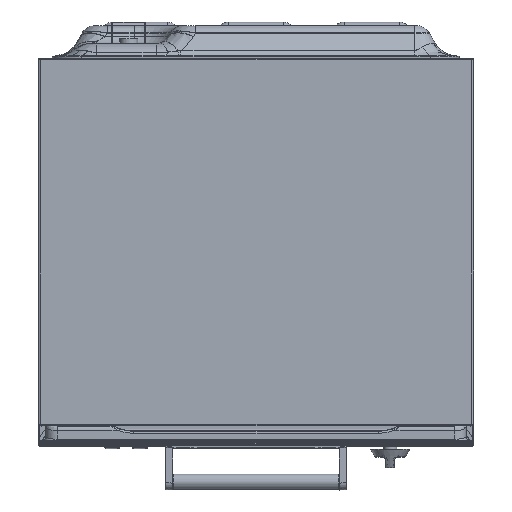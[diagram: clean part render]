
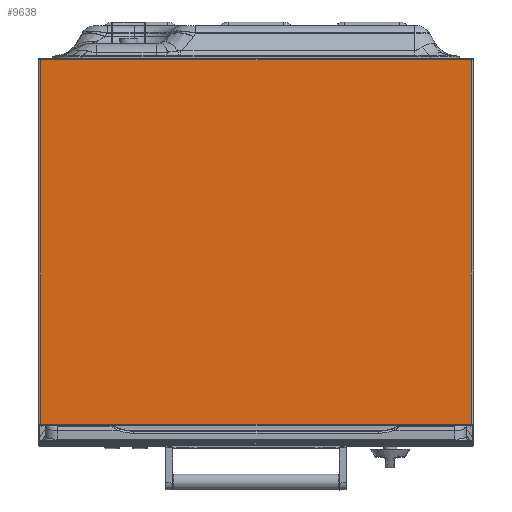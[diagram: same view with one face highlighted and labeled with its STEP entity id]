
A CAD part, top view. The second image highlights one B-rep face of the part: STEP entity #9638.
In plain terms, the highlighted planar face has unit normal (0, 0, 1).
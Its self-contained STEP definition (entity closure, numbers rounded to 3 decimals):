
#4934=PLANE('',#76829);
#9638=ADVANCED_FACE('',(#13795),#4934,.T.);
#13795=FACE_OUTER_BOUND('',#18387,.T.);
#18387=EDGE_LOOP('',(#33086,#33087,#33088,#33089));
#33086=ORIENTED_EDGE('',*,*,#53604,.T.);
#33087=ORIENTED_EDGE('',*,*,#53605,.T.);
#33088=ORIENTED_EDGE('',*,*,#53606,.F.);
#33089=ORIENTED_EDGE('',*,*,#53607,.F.);
#44781=VERTEX_POINT('',#121293);
#44818=VERTEX_POINT('',#121385);
#44819=VERTEX_POINT('',#121387);
#44820=VERTEX_POINT('',#121389);
#53604=EDGE_CURVE('',#44781,#44818,#64940,.T.);
#53605=EDGE_CURVE('',#44818,#44819,#64941,.T.);
#53606=EDGE_CURVE('',#44820,#44819,#64942,.T.);
#53607=EDGE_CURVE('',#44781,#44820,#64943,.T.);
#64940=LINE('',#121384,#69792);
#64941=LINE('',#121386,#69793);
#64942=LINE('',#121388,#69794);
#64943=LINE('',#121390,#69795);
#69792=VECTOR('',#93913,1.);
#69793=VECTOR('',#93914,1.);
#69794=VECTOR('',#93915,1.);
#69795=VECTOR('',#93916,1.);
#76829=AXIS2_PLACEMENT_3D('',#121391,#93917,#93918);
#93913=DIRECTION('',(0.,-1.,0.));
#93914=DIRECTION('',(1.,0.,0.));
#93915=DIRECTION('',(0.,-1.,0.));
#93916=DIRECTION('',(1.,0.,0.));
#93917=DIRECTION('',(0.,0.,1.));
#93918=DIRECTION('',(0.,-1.,0.));
#121293=CARTESIAN_POINT('',(-2.7,495.803,519.35));
#121384=CARTESIAN_POINT('',(-2.7,495.803,519.35));
#121385=CARTESIAN_POINT('',(-2.7,-7.797,519.35));
#121386=CARTESIAN_POINT('',(-2.7,-7.797,519.35));
#121387=CARTESIAN_POINT('',(592.5,-7.797,519.35));
#121388=CARTESIAN_POINT('',(592.5,495.803,519.35));
#121389=CARTESIAN_POINT('',(592.5,495.803,519.35));
#121390=CARTESIAN_POINT('',(-2.7,495.803,519.35));
#121391=CARTESIAN_POINT('',(-2.7,495.803,519.35));
